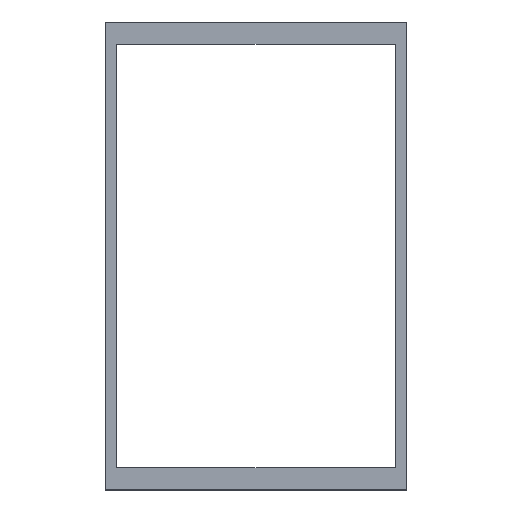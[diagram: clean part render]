
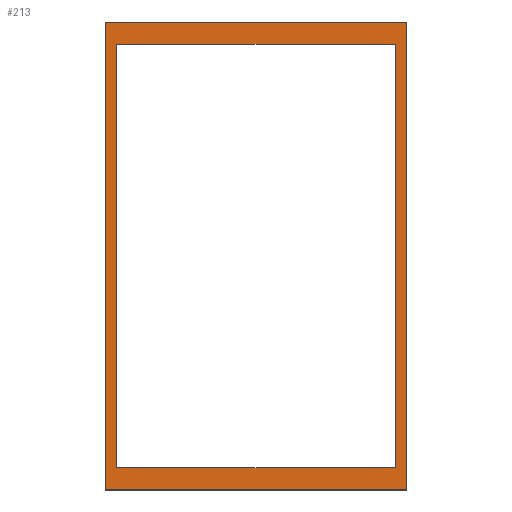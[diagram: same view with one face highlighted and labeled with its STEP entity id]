
A CAD part, top view. The second image highlights one B-rep face of the part: STEP entity #213.
In plain terms, the highlighted planar face has unit normal (0, 0, 1).
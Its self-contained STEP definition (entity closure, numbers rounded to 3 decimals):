
#24 = VERTEX_POINT('',#25);
#25 = CARTESIAN_POINT('',(-30.44,-47.285,4.2));
#32 = PLANE('',#33);
#33 = AXIS2_PLACEMENT_3D('',#34,#35,#36);
#34 = CARTESIAN_POINT('',(-30.44,-47.285,3.8));
#35 = DIRECTION('',(1.,0.,0.));
#36 = DIRECTION('',(0.,0.,1.));
#44 = PLANE('',#45);
#45 = AXIS2_PLACEMENT_3D('',#46,#47,#48);
#46 = CARTESIAN_POINT('',(-30.44,-47.285,3.8));
#47 = DIRECTION('',(0.,1.,0.));
#48 = DIRECTION('',(0.,0.,1.));
#85 = VERTEX_POINT('',#86);
#86 = CARTESIAN_POINT('',(-30.44,47.285,4.2));
#100 = PLANE('',#101);
#101 = AXIS2_PLACEMENT_3D('',#102,#103,#104);
#102 = CARTESIAN_POINT('',(-30.44,47.285,3.8));
#103 = DIRECTION('',(0.,1.,0.));
#104 = DIRECTION('',(0.,0.,1.));
#112 = EDGE_CURVE('',#24,#85,#113,.T.);
#113 = SURFACE_CURVE('',#114,(#118,#125),.PCURVE_S1.);
#114 = LINE('',#115,#116);
#115 = CARTESIAN_POINT('',(-30.44,-47.285,4.2));
#116 = VECTOR('',#117,1.);
#117 = DIRECTION('',(0.,1.,0.));
#118 = PCURVE('',#32,#119);
#119 = DEFINITIONAL_REPRESENTATION('',(#120),#124);
#120 = LINE('',#121,#122);
#121 = CARTESIAN_POINT('',(0.4,0.));
#122 = VECTOR('',#123,1.);
#123 = DIRECTION('',(0.,-1.));
#124 = ( GEOMETRIC_REPRESENTATION_CONTEXT(2) 
PARAMETRIC_REPRESENTATION_CONTEXT() REPRESENTATION_CONTEXT('2D SPACE',''
  ) );
#125 = PCURVE('',#126,#131);
#126 = PLANE('',#127);
#127 = AXIS2_PLACEMENT_3D('',#128,#129,#130);
#128 = CARTESIAN_POINT('',(-30.44,-47.285,4.2));
#129 = DIRECTION('',(0.,0.,1.));
#130 = DIRECTION('',(1.,0.,0.));
#131 = DEFINITIONAL_REPRESENTATION('',(#132),#136);
#132 = LINE('',#133,#134);
#133 = CARTESIAN_POINT('',(0.,0.));
#134 = VECTOR('',#135,1.);
#135 = DIRECTION('',(0.,1.));
#136 = ( GEOMETRIC_REPRESENTATION_CONTEXT(2) 
PARAMETRIC_REPRESENTATION_CONTEXT() REPRESENTATION_CONTEXT('2D SPACE',''
  ) );
#165 = EDGE_CURVE('',#24,#166,#168,.T.);
#166 = VERTEX_POINT('',#167);
#167 = CARTESIAN_POINT('',(30.44,-47.285,4.2));
#168 = SURFACE_CURVE('',#169,(#173,#180),.PCURVE_S1.);
#169 = LINE('',#170,#171);
#170 = CARTESIAN_POINT('',(-30.44,-47.285,4.2));
#171 = VECTOR('',#172,1.);
#172 = DIRECTION('',(1.,0.,0.));
#173 = PCURVE('',#44,#174);
#174 = DEFINITIONAL_REPRESENTATION('',(#175),#179);
#175 = LINE('',#176,#177);
#176 = CARTESIAN_POINT('',(0.4,0.));
#177 = VECTOR('',#178,1.);
#178 = DIRECTION('',(0.,1.));
#179 = ( GEOMETRIC_REPRESENTATION_CONTEXT(2) 
PARAMETRIC_REPRESENTATION_CONTEXT() REPRESENTATION_CONTEXT('2D SPACE',''
  ) );
#180 = PCURVE('',#126,#181);
#181 = DEFINITIONAL_REPRESENTATION('',(#182),#186);
#182 = LINE('',#183,#184);
#183 = CARTESIAN_POINT('',(0.,0.));
#184 = VECTOR('',#185,1.);
#185 = DIRECTION('',(1.,0.));
#186 = ( GEOMETRIC_REPRESENTATION_CONTEXT(2) 
PARAMETRIC_REPRESENTATION_CONTEXT() REPRESENTATION_CONTEXT('2D SPACE',''
  ) );
#202 = PLANE('',#203);
#203 = AXIS2_PLACEMENT_3D('',#204,#205,#206);
#204 = CARTESIAN_POINT('',(30.44,-47.285,3.8));
#205 = DIRECTION('',(1.,0.,0.));
#206 = DIRECTION('',(0.,0.,1.));
#213 = ADVANCED_FACE('',(#214,#262),#126,.T.);
#214 = FACE_BOUND('',#215,.T.);
#215 = EDGE_LOOP('',(#216,#217,#218,#241));
#216 = ORIENTED_EDGE('',*,*,#112,.F.);
#217 = ORIENTED_EDGE('',*,*,#165,.T.);
#218 = ORIENTED_EDGE('',*,*,#219,.T.);
#219 = EDGE_CURVE('',#166,#220,#222,.T.);
#220 = VERTEX_POINT('',#221);
#221 = CARTESIAN_POINT('',(30.44,47.285,4.2));
#222 = SURFACE_CURVE('',#223,(#227,#234),.PCURVE_S1.);
#223 = LINE('',#224,#225);
#224 = CARTESIAN_POINT('',(30.44,-47.285,4.2));
#225 = VECTOR('',#226,1.);
#226 = DIRECTION('',(0.,1.,0.));
#227 = PCURVE('',#126,#228);
#228 = DEFINITIONAL_REPRESENTATION('',(#229),#233);
#229 = LINE('',#230,#231);
#230 = CARTESIAN_POINT('',(60.88,0.));
#231 = VECTOR('',#232,1.);
#232 = DIRECTION('',(0.,1.));
#233 = ( GEOMETRIC_REPRESENTATION_CONTEXT(2) 
PARAMETRIC_REPRESENTATION_CONTEXT() REPRESENTATION_CONTEXT('2D SPACE',''
  ) );
#234 = PCURVE('',#202,#235);
#235 = DEFINITIONAL_REPRESENTATION('',(#236),#240);
#236 = LINE('',#237,#238);
#237 = CARTESIAN_POINT('',(0.4,0.));
#238 = VECTOR('',#239,1.);
#239 = DIRECTION('',(0.,-1.));
#240 = ( GEOMETRIC_REPRESENTATION_CONTEXT(2) 
PARAMETRIC_REPRESENTATION_CONTEXT() REPRESENTATION_CONTEXT('2D SPACE',''
  ) );
#241 = ORIENTED_EDGE('',*,*,#242,.F.);
#242 = EDGE_CURVE('',#85,#220,#243,.T.);
#243 = SURFACE_CURVE('',#244,(#248,#255),.PCURVE_S1.);
#244 = LINE('',#245,#246);
#245 = CARTESIAN_POINT('',(-30.44,47.285,4.2));
#246 = VECTOR('',#247,1.);
#247 = DIRECTION('',(1.,0.,0.));
#248 = PCURVE('',#126,#249);
#249 = DEFINITIONAL_REPRESENTATION('',(#250),#254);
#250 = LINE('',#251,#252);
#251 = CARTESIAN_POINT('',(0.,94.57));
#252 = VECTOR('',#253,1.);
#253 = DIRECTION('',(1.,0.));
#254 = ( GEOMETRIC_REPRESENTATION_CONTEXT(2) 
PARAMETRIC_REPRESENTATION_CONTEXT() REPRESENTATION_CONTEXT('2D SPACE',''
  ) );
#255 = PCURVE('',#100,#256);
#256 = DEFINITIONAL_REPRESENTATION('',(#257),#261);
#257 = LINE('',#258,#259);
#258 = CARTESIAN_POINT('',(0.4,0.));
#259 = VECTOR('',#260,1.);
#260 = DIRECTION('',(0.,1.));
#261 = ( GEOMETRIC_REPRESENTATION_CONTEXT(2) 
PARAMETRIC_REPRESENTATION_CONTEXT() REPRESENTATION_CONTEXT('2D SPACE',''
  ) );
#262 = FACE_BOUND('',#263,.T.);
#263 = EDGE_LOOP('',(#264,#294,#322,#350));
#264 = ORIENTED_EDGE('',*,*,#265,.T.);
#265 = EDGE_CURVE('',#266,#268,#270,.T.);
#266 = VERTEX_POINT('',#267);
#267 = CARTESIAN_POINT('',(28.1,-42.75,4.2));
#268 = VERTEX_POINT('',#269);
#269 = CARTESIAN_POINT('',(-28.1,-42.75,4.2));
#270 = SURFACE_CURVE('',#271,(#275,#282),.PCURVE_S1.);
#271 = LINE('',#272,#273);
#272 = CARTESIAN_POINT('',(-29.27,-42.75,4.2));
#273 = VECTOR('',#274,1.);
#274 = DIRECTION('',(-1.,0.,0.));
#275 = PCURVE('',#126,#276);
#276 = DEFINITIONAL_REPRESENTATION('',(#277),#281);
#277 = LINE('',#278,#279);
#278 = CARTESIAN_POINT('',(1.17,4.535));
#279 = VECTOR('',#280,1.);
#280 = DIRECTION('',(-1.,0.));
#281 = ( GEOMETRIC_REPRESENTATION_CONTEXT(2) 
PARAMETRIC_REPRESENTATION_CONTEXT() REPRESENTATION_CONTEXT('2D SPACE',''
  ) );
#282 = PCURVE('',#283,#288);
#283 = PLANE('',#284);
#284 = AXIS2_PLACEMENT_3D('',#285,#286,#287);
#285 = CARTESIAN_POINT('',(-28.1,-42.75,3.8));
#286 = DIRECTION('',(0.,1.,0.));
#287 = DIRECTION('',(0.,0.,1.));
#288 = DEFINITIONAL_REPRESENTATION('',(#289),#293);
#289 = LINE('',#290,#291);
#290 = CARTESIAN_POINT('',(0.4,-1.17));
#291 = VECTOR('',#292,1.);
#292 = DIRECTION('',(0.,-1.));
#293 = ( GEOMETRIC_REPRESENTATION_CONTEXT(2) 
PARAMETRIC_REPRESENTATION_CONTEXT() REPRESENTATION_CONTEXT('2D SPACE',''
  ) );
#294 = ORIENTED_EDGE('',*,*,#295,.T.);
#295 = EDGE_CURVE('',#268,#296,#298,.T.);
#296 = VERTEX_POINT('',#297);
#297 = CARTESIAN_POINT('',(-28.1,42.75,4.2));
#298 = SURFACE_CURVE('',#299,(#303,#310),.PCURVE_S1.);
#299 = LINE('',#300,#301);
#300 = CARTESIAN_POINT('',(-28.1,-45.018,4.2));
#301 = VECTOR('',#302,1.);
#302 = DIRECTION('',(0.,1.,0.));
#303 = PCURVE('',#126,#304);
#304 = DEFINITIONAL_REPRESENTATION('',(#305),#309);
#305 = LINE('',#306,#307);
#306 = CARTESIAN_POINT('',(2.34,2.268));
#307 = VECTOR('',#308,1.);
#308 = DIRECTION('',(0.,1.));
#309 = ( GEOMETRIC_REPRESENTATION_CONTEXT(2) 
PARAMETRIC_REPRESENTATION_CONTEXT() REPRESENTATION_CONTEXT('2D SPACE',''
  ) );
#310 = PCURVE('',#311,#316);
#311 = PLANE('',#312);
#312 = AXIS2_PLACEMENT_3D('',#313,#314,#315);
#313 = CARTESIAN_POINT('',(-28.1,-42.75,3.8));
#314 = DIRECTION('',(1.,0.,0.));
#315 = DIRECTION('',(0.,0.,1.));
#316 = DEFINITIONAL_REPRESENTATION('',(#317),#321);
#317 = LINE('',#318,#319);
#318 = CARTESIAN_POINT('',(0.4,2.268));
#319 = VECTOR('',#320,1.);
#320 = DIRECTION('',(0.,-1.));
#321 = ( GEOMETRIC_REPRESENTATION_CONTEXT(2) 
PARAMETRIC_REPRESENTATION_CONTEXT() REPRESENTATION_CONTEXT('2D SPACE',''
  ) );
#322 = ORIENTED_EDGE('',*,*,#323,.F.);
#323 = EDGE_CURVE('',#324,#296,#326,.T.);
#324 = VERTEX_POINT('',#325);
#325 = CARTESIAN_POINT('',(28.1,42.75,4.2));
#326 = SURFACE_CURVE('',#327,(#331,#338),.PCURVE_S1.);
#327 = LINE('',#328,#329);
#328 = CARTESIAN_POINT('',(-29.27,42.75,4.2));
#329 = VECTOR('',#330,1.);
#330 = DIRECTION('',(-1.,0.,0.));
#331 = PCURVE('',#126,#332);
#332 = DEFINITIONAL_REPRESENTATION('',(#333),#337);
#333 = LINE('',#334,#335);
#334 = CARTESIAN_POINT('',(1.17,90.035));
#335 = VECTOR('',#336,1.);
#336 = DIRECTION('',(-1.,0.));
#337 = ( GEOMETRIC_REPRESENTATION_CONTEXT(2) 
PARAMETRIC_REPRESENTATION_CONTEXT() REPRESENTATION_CONTEXT('2D SPACE',''
  ) );
#338 = PCURVE('',#339,#344);
#339 = PLANE('',#340);
#340 = AXIS2_PLACEMENT_3D('',#341,#342,#343);
#341 = CARTESIAN_POINT('',(-28.1,42.75,3.8));
#342 = DIRECTION('',(0.,1.,0.));
#343 = DIRECTION('',(0.,0.,1.));
#344 = DEFINITIONAL_REPRESENTATION('',(#345),#349);
#345 = LINE('',#346,#347);
#346 = CARTESIAN_POINT('',(0.4,-1.17));
#347 = VECTOR('',#348,1.);
#348 = DIRECTION('',(0.,-1.));
#349 = ( GEOMETRIC_REPRESENTATION_CONTEXT(2) 
PARAMETRIC_REPRESENTATION_CONTEXT() REPRESENTATION_CONTEXT('2D SPACE',''
  ) );
#350 = ORIENTED_EDGE('',*,*,#351,.F.);
#351 = EDGE_CURVE('',#266,#324,#352,.T.);
#352 = SURFACE_CURVE('',#353,(#357,#364),.PCURVE_S1.);
#353 = LINE('',#354,#355);
#354 = CARTESIAN_POINT('',(28.1,-45.018,4.2));
#355 = VECTOR('',#356,1.);
#356 = DIRECTION('',(0.,1.,0.));
#357 = PCURVE('',#126,#358);
#358 = DEFINITIONAL_REPRESENTATION('',(#359),#363);
#359 = LINE('',#360,#361);
#360 = CARTESIAN_POINT('',(58.54,2.268));
#361 = VECTOR('',#362,1.);
#362 = DIRECTION('',(0.,1.));
#363 = ( GEOMETRIC_REPRESENTATION_CONTEXT(2) 
PARAMETRIC_REPRESENTATION_CONTEXT() REPRESENTATION_CONTEXT('2D SPACE',''
  ) );
#364 = PCURVE('',#365,#370);
#365 = PLANE('',#366);
#366 = AXIS2_PLACEMENT_3D('',#367,#368,#369);
#367 = CARTESIAN_POINT('',(28.1,-42.75,3.8));
#368 = DIRECTION('',(1.,0.,0.));
#369 = DIRECTION('',(0.,0.,1.));
#370 = DEFINITIONAL_REPRESENTATION('',(#371),#375);
#371 = LINE('',#372,#373);
#372 = CARTESIAN_POINT('',(0.4,2.268));
#373 = VECTOR('',#374,1.);
#374 = DIRECTION('',(0.,-1.));
#375 = ( GEOMETRIC_REPRESENTATION_CONTEXT(2) 
PARAMETRIC_REPRESENTATION_CONTEXT() REPRESENTATION_CONTEXT('2D SPACE',''
  ) );
